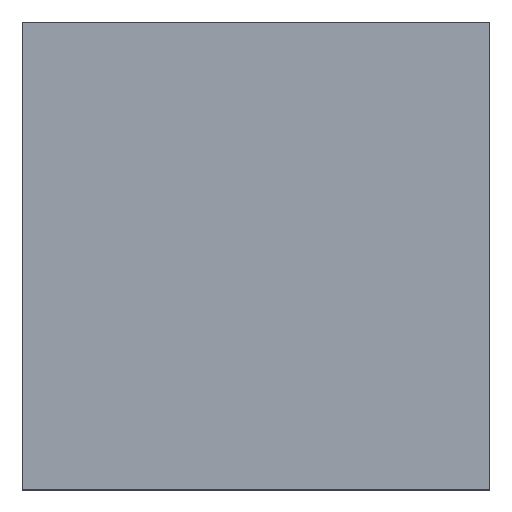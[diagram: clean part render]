
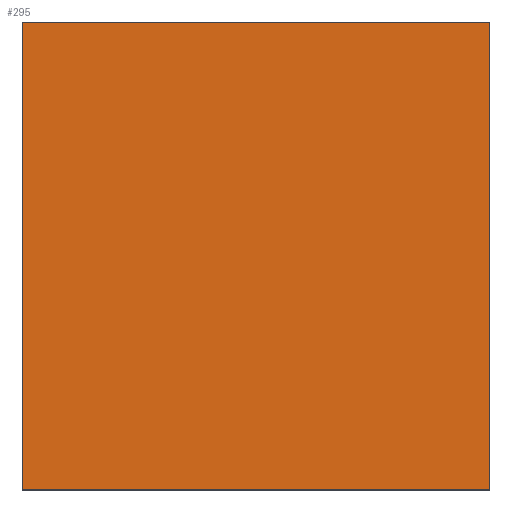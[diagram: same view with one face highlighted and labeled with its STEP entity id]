
A CAD part, top view. The second image highlights one B-rep face of the part: STEP entity #295.
In plain terms, the highlighted planar face has unit normal (0, 0, 1).
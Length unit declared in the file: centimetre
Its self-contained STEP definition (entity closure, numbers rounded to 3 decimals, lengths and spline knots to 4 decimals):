
#13 = EDGE_CURVE ( 'NONE', #485, #249, #199, .T. ) ;
#55 = LINE ( 'NONE', #355, #209 ) ;
#60 = DIRECTION ( 'NONE',  ( 1., 0., 0. ) ) ;
#105 = CARTESIAN_POINT ( 'NONE',  ( 0., 1000., 1000. ) ) ;
#121 = VECTOR ( 'NONE', #285, 100. ) ;
#123 = LINE ( 'NONE', #377, #494 ) ;
#127 = CARTESIAN_POINT ( 'NONE',  ( 1000., 0., 1000. ) ) ;
#139 = DIRECTION ( 'NONE',  ( 0., 0., 1. ) ) ;
#149 = VERTEX_POINT ( 'NONE', #386 ) ;
#152 = CARTESIAN_POINT ( 'NONE',  ( 0., 0., 1000. ) ) ;
#159 = CARTESIAN_POINT ( 'NONE',  ( 0., 1000., 1000. ) ) ;
#191 = VERTEX_POINT ( 'NONE', #127 ) ;
#199 = LINE ( 'NONE', #159, #121 ) ;
#203 = EDGE_LOOP ( 'NONE', ( #204, #278, #325, #326 ) ) ;
#204 = ORIENTED_EDGE ( 'NONE', *, *, #521, .T. ) ;
#209 = VECTOR ( 'NONE', #422, 100. ) ;
#225 = LINE ( 'NONE', #431, #438 ) ;
#249 = VERTEX_POINT ( 'NONE', #105 ) ;
#278 = ORIENTED_EDGE ( 'NONE', *, *, #284, .T. ) ;
#284 = EDGE_CURVE ( 'NONE', #149, #191, #55, .T. ) ;
#285 = DIRECTION ( 'NONE',  ( -1., 0., 0. ) ) ;
#295 = ADVANCED_FACE ( 'NONE', ( #307 ), #397, .T. ) ;
#307 = FACE_OUTER_BOUND ( 'NONE', #203, .T. ) ;
#325 = ORIENTED_EDGE ( 'NONE', *, *, #474, .T. ) ;
#326 = ORIENTED_EDGE ( 'NONE', *, *, #13, .T. ) ;
#355 = CARTESIAN_POINT ( 'NONE',  ( 0., 0., 1000. ) ) ;
#377 = CARTESIAN_POINT ( 'NONE',  ( 1000., 1000., 1000. ) ) ;
#383 = DIRECTION ( 'NONE',  ( 0., 1., 0. ) ) ;
#386 = CARTESIAN_POINT ( 'NONE',  ( 0., 0., 1000. ) ) ;
#397 = PLANE ( 'NONE',  #500 ) ;
#416 = CARTESIAN_POINT ( 'NONE',  ( 1000., 1000., 1000. ) ) ;
#422 = DIRECTION ( 'NONE',  ( 1., 0., 0. ) ) ;
#425 = DIRECTION ( 'NONE',  ( 0., -1., 0. ) ) ;
#431 = CARTESIAN_POINT ( 'NONE',  ( 0., 1000., 1000. ) ) ;
#438 = VECTOR ( 'NONE', #425, 100. ) ;
#474 = EDGE_CURVE ( 'NONE', #191, #485, #123, .T. ) ;
#485 = VERTEX_POINT ( 'NONE', #416 ) ;
#494 = VECTOR ( 'NONE', #383, 100. ) ;
#500 = AXIS2_PLACEMENT_3D ( 'NONE', #152, #139, #60 ) ;
#521 = EDGE_CURVE ( 'NONE', #249, #149, #225, .T. ) ;
